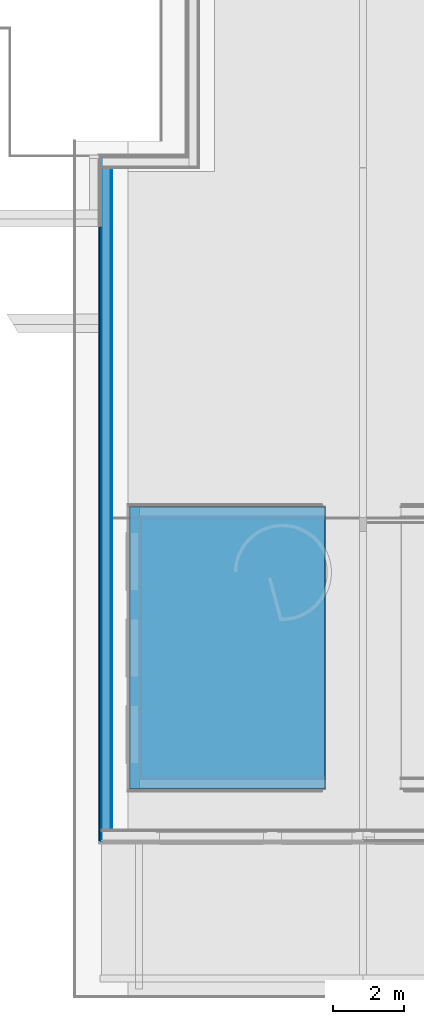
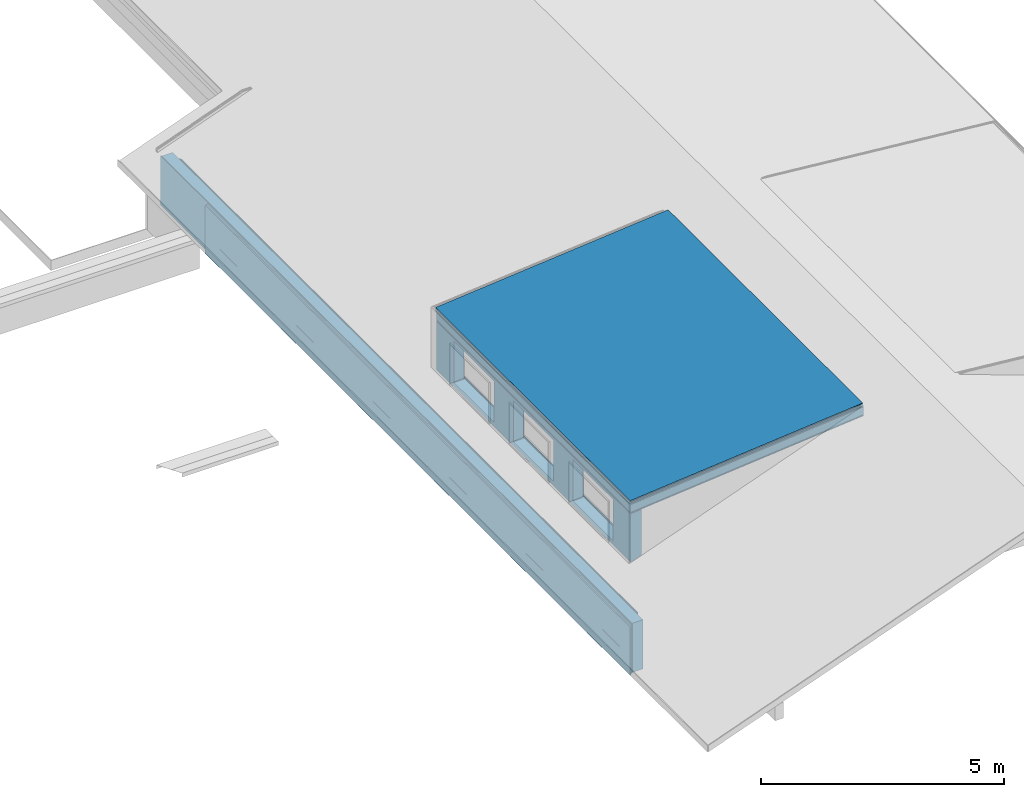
# One storey, part 3 of 12: 18 building element parts, 3 openings, 5 elements without a shape of their own.
"""IFC4 building model written with IfcOpenShell, lengths in millimetres."""

from ifc_helpers import new_model, entity, si_unit, converted_unit, derived_unit, direction, frame, origin_with_axes, place, context, subcontext, project, spatial, polygons, material, type_object, element, aggregate, save


model = new_model("IFC4")

# Units and contexts
model_context = context("Model", 3, precision=0.01, world=origin_with_axes(), true_north=direction((0.0, 1.0)))
body_context = subcontext(model_context, "Body", "Model", "MODEL_VIEW")
ifc_project = project(units=[si_unit("LENGTHUNIT", "METRE", prefix="MILLI"), si_unit("AREAUNIT", "SQUARE_METRE"), si_unit("VOLUMEUNIT", "CUBIC_METRE"), converted_unit("PLANEANGLEUNIT", "DEGREE", entity("IfcPlaneAngleMeasure", 0.0174532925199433), si_unit("PLANEANGLEUNIT", "RADIAN"), dimensions=[0, 0, 0, 0, 0, 0, 0]), converted_unit("TIMEUNIT", "Year", entity("IfcTimeMeasure", 31557600.0), si_unit("TIMEUNIT", "SECOND"), dimensions=[0, 0, 1, 0, 0, 0, 0]), si_unit("MASSUNIT", "GRAM", prefix="KILO"), si_unit("THERMODYNAMICTEMPERATUREUNIT", "DEGREE_CELSIUS"), si_unit("LUMINOUSINTENSITYUNIT", "LUMEN"), si_unit("ENERGYUNIT", "JOULE", prefix="MEGA"), derived_unit("THERMALCONDUCTANCEUNIT", [(si_unit("POWERUNIT", "WATT"), 1), (si_unit("LENGTHUNIT", "METRE"), -1), (si_unit("THERMODYNAMICTEMPERATUREUNIT", "KELVIN"), -1)]), derived_unit("SPECIFICHEATCAPACITYUNIT", [(si_unit("ENERGYUNIT", "JOULE"), 1), (si_unit("MASSUNIT", "GRAM", prefix="KILO"), -1), (si_unit("THERMODYNAMICTEMPERATUREUNIT", "KELVIN"), -1)]), derived_unit("MASSDENSITYUNIT", [(si_unit("MASSUNIT", "GRAM", prefix="KILO"), 1), (si_unit("VOLUMEUNIT", "CUBIC_METRE"), -1)])], contexts=[model_context])

# Site, building, storey
site_placement = place(None, origin_with_axes())
site = spatial("IfcSite", under=ifc_project, at=site_placement, Name="Gelände", CompositionType="ELEMENT")
building_placement = place(site_placement, origin_with_axes())
building = spatial("IfcBuilding", under=site, at=building_placement, Name="Gebäude", CompositionType="ELEMENT")
storey_placement = place(building_placement, frame((0.0, 0.0, 11600.0), z_axis=(0.0, 0.0, 1.0), x_axis=(1.0, 0.0, 0.0)))
storey = spatial("IfcBuildingStorey", under=building, at=storey_placement, Name="Dachaufsicht", CompositionType="ELEMENT", Elevation=11600.0)

# Curtain wall, building element parts
curtain_wall_type = type_object("IfcCurtainWallType", Name="Fassade Typ 02 - Vertikale Schalung 71", PredefinedType="NOTDEFINED")
curtain_wall_placement = place(storey_placement, frame((17928.99744477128, 25947.59674077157, 499.999999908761), z_axis=(0.0, 0.0, 1.0), x_axis=(0.0, -1.0, 0.0)))
curtain_wall = element("IfcCurtainWall", 1, at=curtain_wall_placement, inside=storey, type_object=curtain_wall_type, Name="Wand-014", PredefinedType="NOTDEFINED")
ifc_material_1 = material(Name="Lattenrost vertikal")
building_element_part_1_placement = place(curtain_wall_placement, origin_with_axes())
building_element_part_1 = element("IfcBuildingElementPart", 2, at=building_element_part_1_placement, material=ifc_material_1, Name="Lattenrost vertikal", PredefinedType="NOTDEFINED", context=body_context, shape_type="Tessellation", body=[
    polygons([(0.0, 46.00000117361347, 466.1732444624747), (0.0, 71.0000000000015, 468.641173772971), (0.0, 71.00000000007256, 433.5267559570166), (0.0, 46.00000109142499, 433.5267559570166), (17428.99945945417, 71.00000000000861, 468.641173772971), (17428.99945945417, 46.00000001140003, 466.1732443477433), (17428.99945945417, 70.99999999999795, 0.0), (0.0, 71.0000000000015, 0.0), (0.0, 71.00000000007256, 431.0000000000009), (4.999999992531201, 71.00000000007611, 431.0000000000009), (4.99991381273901, 71.00000000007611, 333.5267559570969), (7.699960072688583, 71.00000000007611, 333.5267559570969), (7.700087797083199, 71.00000000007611, 433.5267559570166), (7.700087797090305, 46.00000309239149, 433.5267559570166), (7.699960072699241, 46.00000309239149, 333.5267559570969), (4.999913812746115, 46.00000309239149, 333.5267559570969), (4.999999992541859, 46.00000309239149, 431.0000000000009), (0.0, 46.00000108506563, 431.0000000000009), (0.0, 45.99999999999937, 0.0), (17428.99945945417, 45.99999999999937, 0.0)], [[[1, 2, 3, 4]], [[5, 2, 1, 6]], [[2, 5, 7, 8, 9, 10, 11, 12, 13, 3]], [[4, 3, 13, 14]], [[6, 1, 4, 14, 15, 16, 17, 18, 19, 20]], [[5, 6, 20, 7]], [[20, 19, 8, 7]], [[18, 9, 8, 19]], [[10, 9, 18, 17]], [[11, 10, 17, 16]], [[12, 11, 16, 15]], [[13, 12, 15, 14]]], closed=True),
    polygons([(17428.99945945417, 71.00000000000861, 501.6508769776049), (0.0, 71.0000000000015, 501.6508769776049), (0.0, 71.00000141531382, 1228.330202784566), (17428.99945945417, 71.00000001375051, 1228.330202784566), (0.0, 68.29999884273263, 501.6508769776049), (17428.99945945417, 68.29999884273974, 501.6508769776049), (0.0, 68.29999884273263, 471.4821269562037), (0.0, 46.00000118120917, 469.1902176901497), (0.0, 46.00000307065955, 1219.698966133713), (0.0, 69.71413087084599, 1228.330202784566), (17428.99945945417, 69.71413087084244, 1228.330202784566), (17428.99945945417, 46.00000002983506, 1219.698965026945), (17428.99945945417, 46.00000001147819, 469.1902175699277), (17428.99945945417, 68.29999884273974, 471.4821269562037)], [[[1, 2, 3, 4]], [[5, 2, 1, 6]], [[7, 8, 9, 10, 3, 2, 5]], [[11, 4, 3, 10]], [[6, 1, 4, 11, 12, 13, 14]], [[7, 5, 6, 14]], [[8, 7, 14, 13]], [[8, 13, 12, 9]], [[9, 12, 11, 10]]], closed=True),
])
ifc_material_2 = material(Name="Lattenrost horizontal")
building_element_part_2_placement = place(curtain_wall_placement, origin_with_axes())
building_element_part_2 = element("IfcBuildingElementPart", 3, at=building_element_part_2_placement, material=ifc_material_2, Name="Lattenrost horizontal", PredefinedType="NOTDEFINED", context=body_context, shape_type="Tessellation", body=[
    polygons([(0.0, 21.00000180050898, 463.7053150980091), (0.0, 46.00000117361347, 466.1732444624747), (0.0, 46.00000109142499, 433.5267559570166), (0.0, 21.00000168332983, 433.5267559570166), (17453.99945944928, 46.00000000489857, 466.1732443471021), (17453.99945945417, 21.00000001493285, 463.7053149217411), (17453.99945945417, 45.99999999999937, 0.0), (0.0, 45.99999999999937, 0.0), (0.0, 46.00000108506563, 431.0000000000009), (4.999999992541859, 45.99999999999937, 431.0000000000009), (4.999913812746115, 45.99999999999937, 333.5267559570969), (7.699960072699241, 45.99999999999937, 333.5267559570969), (7.700087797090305, 45.99999999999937, 433.5267559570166), (7.700087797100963, 21.00000476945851, 433.5267559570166), (7.699960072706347, 21.00000476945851, 333.5267559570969), (4.999913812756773, 21.00000476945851, 333.5267559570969), (4.999999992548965, 21.00000476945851, 431.0000000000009), (0.0, 21.00000167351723, 431.0000000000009), (0.0, 20.99999999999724, 0.0), (17453.99945945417, 20.99999999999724, 0.0)], [[[1, 2, 3, 4]], [[5, 2, 1, 6]], [[2, 5, 7, 8, 9, 10, 11, 12, 13, 3]], [[4, 3, 13, 14]], [[6, 1, 4, 14, 15, 16, 17, 18, 19, 20]], [[5, 6, 20, 7]], [[20, 19, 8, 7]], [[18, 9, 8, 19]], [[10, 9, 18, 17]], [[11, 10, 17, 16]], [[12, 11, 16, 15]], [[13, 12, 15, 14]]], closed=True),
    polygons([(17453.99945944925, 46.00000000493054, 469.1902175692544), (0.0, 46.00000118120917, 469.1902176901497), (0.0, 46.00000307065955, 1219.698966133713), (17453.99945945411, 46.00000002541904, 1219.698965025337), (0.0, 21.00000181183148, 466.6208124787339), (17453.99945945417, 21.00000001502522, 466.6208122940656), (0.0, 21.00000470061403, 1210.599710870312), (17453.99945945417, 21.00000003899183, 1210.599709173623)], [[[1, 2, 3, 4]], [[5, 2, 1, 6]], [[2, 5, 7, 3]], [[3, 7, 8, 4]], [[6, 1, 4, 8]], [[5, 6, 8, 7]]], closed=True),
])
ifc_material_3 = material(Name="Falzschalung vertikal")
building_element_part_3_placement = place(curtain_wall_placement, origin_with_axes())
building_element_part_3 = element("IfcBuildingElementPart", 4, at=building_element_part_3_placement, material=ifc_material_3, Name="Falzschalung vertikal", PredefinedType="NOTDEFINED", context=body_context, shape_type="Tessellation", body=[
    polygons([(0.0, 0.0, 461.6322542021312), (0.0, 21.00000180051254, 463.7053150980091), (0.0, 21.00000168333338, 433.5267559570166), (0.0, 0.0, 433.5267559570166), (17478.99945944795, 21.00000000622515, 463.7053149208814), (17478.99945945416, 0.0, 461.6322542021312), (17478.99945945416, 20.99999999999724, 0.0), (0.0, 21.0000000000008, 0.0), (0.0, 21.00000167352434, 431.0000000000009), (4.999999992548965, 21.0000000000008, 431.0000000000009), (4.999913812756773, 21.0000000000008, 333.5267559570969), (7.699960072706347, 21.0000000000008, 333.5267559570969), (7.700087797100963, 21.0000000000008, 433.5267559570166), (7.700087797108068, 0.0, 433.5267559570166), (7.699960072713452, 0.0, 333.5267559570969), (4.999913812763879, 0.0, 333.5267559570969), (4.99999999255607, 0.0, 431.0000000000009), (0.0, 0.0, 431.0000000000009), (0.0, 0.0, 0.0), (17478.99945945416, 0.0, 0.0)], [[[1, 2, 3, 4]], [[5, 2, 1, 6]], [[2, 5, 7, 8, 9, 10, 11, 12, 13, 3]], [[4, 3, 13, 14]], [[6, 1, 4, 14, 15, 16, 17, 18, 19, 20]], [[5, 6, 20, 7]], [[20, 19, 8, 7]], [[18, 9, 8, 19]], [[10, 9, 18, 17]], [[11, 10, 17, 16]], [[12, 11, 16, 15]], [[13, 12, 15, 14]]], closed=True),
    polygons([(17478.99945944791, 21.00000000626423, 466.620812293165), (0.0, 21.00000181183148, 466.6208124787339), (0.0, 21.00000470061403, 1210.599710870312), (17478.99945945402, 21.00000003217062, 1210.59970917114), (0.0, 0.0, 464.462511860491), (17478.99945945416, 0.0, 464.4625118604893), (0.0, 0.0, 1202.95633423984), (17478.99945945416, 0.0, 1202.95633423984)], [[[1, 2, 3, 4]], [[5, 2, 1, 6]], [[2, 5, 7, 3]], [[3, 7, 8, 4]], [[6, 1, 4, 8]], [[5, 6, 8, 7]]], closed=True),
])
aggregate(curtain_wall, [building_element_part_1, building_element_part_2, building_element_part_3])

# Roof, building element parts
roof_type = type_object("IfcRoofType", Name="Steildach Typ 01 255", PredefinedType="NOTDEFINED")
roof_placement = place(storey_placement, frame((18825.99744477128, 15355.6701158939, 3308.732717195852), z_axis=(0.0, 0.0, 1.0), x_axis=(0.0, -1.0, 0.0)))
roof = element("IfcRoof", 5, at=roof_placement, inside=storey, type_object=roof_type, Name="Dach-011", PredefinedType="NOTDEFINED")
ifc_material_4 = material(Name="Balken Konstruktion gedämmt")
building_element_part_4_placement = place(roof_placement, origin_with_axes())
building_element_part_4 = element("IfcBuildingElementPart", 6, at=building_element_part_4_placement, material=ifc_material_4, Name="Balken Konstruktion gedämmt", PredefinedType="NOTDEFINED", context=body_context, shape_type="Tessellation", body=[
    polygons([(5348.000003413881, 5534.146930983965, 746.2016753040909), (5348.00000370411, 5534.146931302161, 555.3641014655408), (-2623.999996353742, 5534.146931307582, 555.3641014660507), (-2623.999996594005, 5534.14693101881, 746.2016753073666), (5348.000003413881, 1.611866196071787e-08, 225.991863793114), (5348.00000370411, 1.182094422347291e-07, 35.15428993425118), (-2623.999996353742, 1.182094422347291e-07, 35.15428993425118), (-2623.999996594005, 1.611866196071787e-08, 225.991863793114)], [[[1, 2, 3, 4]], [[5, 6, 2, 1]], [[3, 2, 6, 7]], [[4, 3, 7, 8]], [[4, 8, 5, 1]], [[8, 7, 6, 5]]], closed=True),
])
ifc_material_5 = material(Name="Gipskartonplatte GKP")
building_element_part_5_placement = place(roof_placement, origin_with_axes())
building_element_part_5 = element("IfcBuildingElementPart", 7, at=building_element_part_5_placement, material=ifc_material_5, Name="Gipskartonplatte GKP", PredefinedType="NOTDEFINED", context=body_context, shape_type="Tessellation", body=[
    polygons([(5348.00000370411, 5534.146931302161, 555.3641014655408), (5348.000003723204, 5534.146931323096, 542.8089979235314), (-2623.999996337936, 5534.146931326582, 542.8089979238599), (-2623.999996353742, 5534.146931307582, 555.3641014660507), (5348.00000370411, 1.182094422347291e-07, 35.15428993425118), (5348.000003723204, 1.24924071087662e-07, 22.59918639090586), (-2623.999996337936, 1.24924071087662e-07, 22.59918639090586), (-2623.999996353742, 1.182094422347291e-07, 35.15428993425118)], [[[1, 2, 3, 4]], [[5, 6, 2, 1]], [[3, 2, 6, 7]], [[4, 3, 7, 8]], [[4, 8, 5, 1]], [[8, 7, 6, 5]]], closed=True),
])
ifc_material_6 = material(Name="Dreischichtplatte-DSP")
building_element_part_6_placement = place(roof_placement, origin_with_axes())
building_element_part_6 = element("IfcBuildingElementPart", 8, at=building_element_part_6_placement, material=ifc_material_6, Name="Dreischichtplatte-DSP", PredefinedType="NOTDEFINED", context=body_context, shape_type="Tessellation", body=[
    polygons([(-2623.999996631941, 5534.146930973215, 776.3339231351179), (-2623.999996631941, 0.0, 256.1241116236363), (5348.000003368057, 0.0, 256.1241116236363), (5348.000003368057, 5534.146930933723, 776.333923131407), (-2623.999996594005, 5534.14693101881, 746.2016753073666), (-2623.999996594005, 1.611866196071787e-08, 225.991863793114), (5348.000003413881, 1.611866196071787e-08, 225.991863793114), (5348.000003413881, 5534.146930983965, 746.2016753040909)], [[[1, 2, 3, 4]], [[1, 5, 6, 2]], [[2, 6, 7, 3]], [[3, 7, 8, 4]], [[4, 8, 5, 1]], [[5, 8, 7, 6]]], closed=True),
])
ifc_material_7 = material(Name="Kalkzementputz Aussen")
building_element_part_7_placement = place(roof_placement, origin_with_axes())
building_element_part_7 = element("IfcBuildingElementPart", 9, at=building_element_part_7_placement, material=ifc_material_7, Name="Kalkzementputz Aussen", PredefinedType="NOTDEFINED", context=body_context, shape_type="Tessellation", body=[
    polygons([(5348.000003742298, 5534.146931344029, 530.2538943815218), (5348.000003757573, 5534.146931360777, 520.2098119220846), (-2623.999996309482, 5534.146931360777, 520.2098119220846), (-2623.999996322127, 5534.146931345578, 530.2538943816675), (5348.000003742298, 1.316422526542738e-07, 10.04408284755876), (5348.000003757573, 1.370139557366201e-07, 3.8705216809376e-07), (-2623.999996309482, 1.370139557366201e-07, 3.8705216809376e-07), (-2623.999996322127, 1.316422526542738e-07, 10.04408284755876)], [[[1, 2, 3, 4]], [[5, 6, 2, 1]], [[2, 6, 7, 3]], [[4, 3, 7, 8]], [[4, 8, 5, 1]], [[8, 7, 6, 5]]], closed=True),
])
building_element_part_8_placement = place(roof_placement, origin_with_axes())
building_element_part_8 = element("IfcBuildingElementPart", 10, at=building_element_part_8_placement, material=ifc_material_5, Name="Gipskartonplatte GKP", PredefinedType="NOTDEFINED", context=body_context, shape_type="Tessellation", body=[
    polygons([(5348.000003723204, 5534.146931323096, 542.8089979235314), (5348.000003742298, 5534.146931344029, 530.2538943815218), (-2623.99999632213, 5534.146931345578, 530.2538943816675), (-2623.999996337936, 5534.146931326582, 542.8089979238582), (5348.000003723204, 1.24924071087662e-07, 22.59918639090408), (5348.000003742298, 1.316422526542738e-07, 10.04408284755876), (-2623.99999632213, 1.316422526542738e-07, 10.04408284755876), (-2623.999996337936, 1.24924071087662e-07, 22.59918639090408)], [[[1, 2, 3, 4]], [[5, 6, 2, 1]], [[3, 2, 6, 7]], [[4, 3, 7, 8]], [[4, 8, 5, 1]], [[8, 7, 6, 5]]], closed=True),
])
aggregate(roof, [building_element_part_4, building_element_part_5, building_element_part_6, building_element_part_7, building_element_part_8])

# Covering, building element parts
covering_type = type_object("IfcCoveringType", Name="Dacheindeckung Typ 03 - Steildach 100", PredefinedType="NOTDEFINED")
covering_placement = place(storey_placement, frame((18825.99744477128, 15355.67011252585, 3554.811502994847), z_axis=(0.0, 0.0, 1.0), x_axis=(0.0, -1.0, 0.0)))
covering = element("IfcCovering", 11, at=covering_placement, inside=storey, type_object=covering_type, Name="Dach-011", PredefinedType="NOTDEFINED")
ifc_material_8 = material(Name="Dachziegel grau")
building_element_part_9_placement = place(covering_placement, origin_with_axes())
building_element_part_9 = element("IfcBuildingElementPart", 12, at=building_element_part_9_placement, material=ifc_material_8, Name="Dachziegel grau", PredefinedType="NOTDEFINED", context=body_context, shape_type="Tessellation", body=[
    polygons([(-2642.0, 5509.237092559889, 618.3091150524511), (-2642.0, -18.00000000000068, 98.74882835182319), (5366.0, -18.00000000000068, 98.74882835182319), (5366.0, 5509.237092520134, 618.3091150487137), (-2641.999999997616, 5509.237092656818, 593.1989079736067), (-2641.999999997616, -18.00000002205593, 73.63862126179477), (5366.00000009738, -18.00000002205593, 73.63862126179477), (5366.00000009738, 5509.237092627, 593.1989079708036)], [[[1, 2, 3, 4]], [[1, 5, 6, 2]], [[2, 6, 7, 3]], [[3, 7, 8, 4]], [[4, 8, 5, 1]], [[5, 8, 7, 6]]], closed=True),
])
ifc_material_9 = material(Name="Aufdachdämmung")
building_element_part_10_placement = place(covering_placement, origin_with_axes())
building_element_part_10 = element("IfcBuildingElementPart", 13, at=building_element_part_10_placement, material=ifc_material_9, Name="Aufdachdämmung", PredefinedType="NOTDEFINED", context=body_context, shape_type="Tessellation", body=[
    polygons([(5366.00000009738, 5509.237092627, 593.1989079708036), (5366.000000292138, 5509.237092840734, 542.9784938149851), (-2641.999999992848, 5509.237092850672, 542.9784938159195), (-2641.999999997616, 5509.237092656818, 593.1989079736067), (5366.00000009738, -18.00000002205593, 73.63862126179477), (5366.000000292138, -18.00000006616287, 23.41820708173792), (-2641.999999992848, -18.00000006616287, 23.41820708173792), (-2641.999999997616, -18.00000002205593, 73.63862126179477)], [[[1, 2, 3, 4]], [[5, 6, 2, 1]], [[3, 2, 6, 7]], [[4, 3, 7, 8]], [[4, 8, 5, 1]], [[8, 7, 6, 5]]], closed=True),
])
building_element_part_11_placement = place(covering_placement, origin_with_axes())
building_element_part_11 = element("IfcBuildingElementPart", 14, at=building_element_part_11_placement, material=ifc_material_1, Name="Lattenrost vertikal", PredefinedType="NOTDEFINED", context=body_context, shape_type="Tessellation", body=[
    polygons([(5366.000000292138, 5509.237092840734, 542.9784938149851), (5366.000000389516, 5509.2370929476, 517.8682871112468), (-2641.999999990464, 5509.2370929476, 517.8682871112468), (-2641.999999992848, 5509.237092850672, 542.9784938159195), (5366.000000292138, -18.00000006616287, 23.41820708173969), (5366.000000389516, -18.00000008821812, -1.691999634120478), (-2641.999999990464, -18.00000008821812, -1.691999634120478), (-2641.999999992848, -18.00000006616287, 23.41820708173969)], [[[1, 2, 3, 4]], [[5, 6, 2, 1]], [[2, 6, 7, 3]], [[4, 3, 7, 8]], [[4, 8, 5, 1]], [[8, 7, 6, 5]]], closed=True),
])
aggregate(covering, [building_element_part_9, building_element_part_10, building_element_part_11])

# Wall, building element parts
wall_type = type_object("IfcWallType", Name="Aussenwand Typ 01 318", PredefinedType="NOTDEFINED")
wall_1_placement = place(storey_placement, frame((17999.99744477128, 27907.59728131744, 500.0), z_axis=(0.0, 0.0, 1.0), x_axis=(0.0, -1.0, 0.0)))
wall_1 = element("IfcWall", 15, at=wall_1_placement, inside=storey, type_object=wall_type, Name="Wand-014", PredefinedType="NOTDEFINED")
ifc_material_10 = material(Name="Verputz Innen")
building_element_part_12_placement = place(wall_1_placement, origin_with_axes())
building_element_part_12 = element("IfcBuildingElementPart", 16, at=building_element_part_12_placement, material=ifc_material_10, Name="Verputz Innen", PredefinedType="NOTDEFINED", context=body_context, shape_type="Tessellation", body=[
    polygons([(10217.9271687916, 317.9999999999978, 150.0001526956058), (10217.9271687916, 317.9999999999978, 0.0), (307.9999999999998, 318.0000000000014, 0.0), (307.9999999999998, 318.0000000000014, 1235.349685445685), (19081.00000000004, 317.9999999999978, 1235.349685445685), (19081.00000000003, 317.9999999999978, 150.0000000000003), (10244.9271687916, 317.9999999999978, 150.0001526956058), (10217.9271687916, 308.0000000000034, 150.0001526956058), (10217.9271687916, 308.0000000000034, 0.0), (307.9999999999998, 307.9999999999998, 0.0), (307.9999999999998, 307.9999999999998, 1235.349685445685), (19081.00000000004, 307.9999999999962, 1235.349685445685), (19081.00000000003, 308.0000000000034, 150.0000000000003), (10244.9271687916, 308.0000000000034, 150.0001526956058)], [[[1, 2, 3, 4, 5, 6, 7]], [[2, 1, 8, 9]], [[2, 9, 10, 3]], [[11, 4, 3, 10]], [[11, 12, 5, 4]], [[12, 13, 6, 5]], [[14, 8, 1, 7, 6, 13]], [[8, 14, 13, 12, 11, 10, 9]]], closed=True),
])
ifc_material_11 = material(Name="Gipsfaserplatte GFP")
building_element_part_13_placement = place(wall_1_placement, origin_with_axes())
building_element_part_13 = element("IfcBuildingElementPart", 17, at=building_element_part_13_placement, material=ifc_material_11, Name="Gipsfaserplatte GFP", PredefinedType="NOTDEFINED", context=body_context, shape_type="Tessellation", body=[
    polygons([(19111.00000000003, 277.9999999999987, 0.0), (277.9999999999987, 277.9999999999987, 0.0), (277.9999999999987, 292.9999999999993, 0.0), (19111.00000000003, 292.9999999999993, 0.0), (19111.00000000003, 277.9999999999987, 1235.349685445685), (277.9999999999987, 277.9999999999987, 1235.349685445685), (277.9999999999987, 292.9999999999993, 1235.349685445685), (19111.00000000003, 292.9999999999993, 1235.349685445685)], [[[1, 2, 3, 4]], [[5, 6, 2, 1]], [[3, 2, 6, 7]], [[4, 3, 7, 8]], [[4, 8, 5, 1]], [[8, 7, 6, 5]]], closed=True),
])
building_element_part_14_placement = place(wall_1_placement, origin_with_axes())
building_element_part_14 = element("IfcBuildingElementPart", 18, at=building_element_part_14_placement, material=ifc_material_11, Name="Gipsfaserplatte GFP", PredefinedType="NOTDEFINED", context=body_context, shape_type="Tessellation", body=[
    polygons([(19096.00000000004, 307.9999999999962, 0.0), (19096.00000000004, 292.9999999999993, 0.0), (292.9999999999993, 292.9999999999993, 0.0), (292.9999999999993, 307.9999999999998, 0.0), (19096.00000000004, 307.9999999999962, 1235.349685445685), (19096.00000000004, 292.9999999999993, 1235.349685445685), (292.9999999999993, 292.9999999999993, 1235.349685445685), (292.9999999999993, 307.9999999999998, 1235.349685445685)], [[[1, 2, 3, 4]], [[2, 1, 5, 6]], [[2, 6, 7, 3]], [[8, 4, 3, 7]], [[5, 1, 4, 8]], [[6, 5, 8, 7]]], closed=True),
])
ifc_material_12 = material(Name="Ständer Konstruktion gedämmt")
building_element_part_15_placement = place(wall_1_placement, origin_with_axes())
building_element_part_15 = element("IfcBuildingElementPart", 19, at=building_element_part_15_placement, material=ifc_material_12, Name="Ständer Konstruktion gedämmt", PredefinedType="NOTDEFINED", context=body_context, shape_type="Tessellation", body=[
    polygons([(19371.00000000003, 17.99999999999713, 0.0), (18.00000000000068, 18.00000000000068, 0.0), (18.00000000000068, 277.9999999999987, 0.0), (19371.00000000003, 277.9999999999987, 0.0), (19371.00000000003, 17.99999999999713, 1235.349685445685), (18.00000000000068, 18.00000000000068, 1235.349685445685), (18.00000000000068, 277.9999999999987, 1235.349685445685), (19371.00000000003, 277.9999999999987, 1235.349685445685)], [[[1, 2, 3, 4]], [[5, 6, 2, 1]], [[3, 2, 6, 7]], [[4, 3, 7, 8]], [[4, 8, 5, 1]], [[8, 7, 6, 5]]], closed=True),
])
ifc_material_13 = material(Name="Grobspanplatte-OSB")
building_element_part_16_placement = place(wall_1_placement, origin_with_axes())
building_element_part_16 = element("IfcBuildingElementPart", 20, at=building_element_part_16_placement, material=ifc_material_13, Name="Grobspanplatte-OSB", PredefinedType="NOTDEFINED", context=body_context, shape_type="Tessellation", body=[
    polygons([(19389.00000000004, 0.0, 0.0), (0.0, 0.0, 0.0), (0.0, 18.00000000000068, 0.0), (19389.00000000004, 17.99999999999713, 0.0), (19389.00000000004, 0.0, 1235.349685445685), (0.0, 0.0, 1235.349685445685), (0.0, 18.00000000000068, 1235.349685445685), (19389.00000000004, 17.99999999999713, 1235.349685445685)], [[[1, 2, 3, 4]], [[5, 6, 2, 1]], [[3, 2, 6, 7]], [[4, 3, 7, 8]], [[4, 8, 5, 1]], [[8, 7, 6, 5]]], closed=True),
])
aggregate(wall_1, [building_element_part_12, building_element_part_13, building_element_part_14, building_element_part_15, building_element_part_16])

# Wall, openings, building element parts
wall_2_placement = place(storey_placement, frame((18807.99744477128, 9989.670112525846, 1800.639413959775), z_axis=(0.0, 0.0, 1.0), x_axis=(0.0, 1.0, 0.0)))
wall_2 = element("IfcWall", 21, at=wall_2_placement, inside=storey, type_object=wall_type, Name="Wand-014", PredefinedType="NOTDEFINED")
opening_1_placement = place(wall_2_placement, frame((6454.000000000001, 0.0, 464.1720890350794), z_axis=(0.0, 0.0, 1.0), x_axis=(1.0, 0.0, 0.0)))
element("IfcOpeningElement", 22, at=opening_1_placement, cuts=wall_2, Name="Fenster-004", context=body_context, identifier="Reference", shape_type="Tessellation", body=[
    polygons([(-820.9999999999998, -250.0, 971.0000000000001), (821.0000000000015, -250.0, 971.0000000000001), (821.0000000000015, 1.000000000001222, 971.0000000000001), (-820.9999999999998, 1.000000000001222, 971.0000000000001), (821.0000000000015, -250.0, -60.0000000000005), (-820.9999999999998, -250.0, -60.0000000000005), (-920.9999999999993, -250.0, -60.0000000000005), (-920.9999999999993, -250.0, 1071.0), (920.9999999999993, -250.0, 1071.0), (920.9999999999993, -250.0, -60.0000000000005), (821.0000000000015, 1.000000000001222, -60.0000000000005), (-820.9999999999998, 1.000000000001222, -60.0000000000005), (920.9999999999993, -319.0000000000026, -60.0000000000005), (-920.9999999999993, -319.0000000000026, -60.0000000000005), (-920.9999999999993, -319.0000000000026, 1071.0), (920.9999999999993, -319.0000000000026, 1071.0)], [[[1, 2, 3, 4]], [[5, 2, 1, 6, 7, 8, 9, 10]], [[2, 5, 11, 3]], [[3, 11, 12, 4]], [[6, 1, 4, 12]], [[6, 5, 10, 13, 14, 7]], [[8, 7, 14, 15]], [[9, 8, 15, 16]], [[10, 9, 16, 13]], [[5, 6, 12, 11]], [[15, 14, 13, 16]]], closed=True),
])
opening_2_placement = place(wall_2_placement, frame((1553.999999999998, 0.0, 464.1720890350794), z_axis=(0.0, 0.0, 1.0), x_axis=(1.0, 0.0, 0.0)))
element("IfcOpeningElement", 23, at=opening_2_placement, cuts=wall_2, Name="Fenster-004", context=body_context, identifier="Reference", shape_type="Tessellation", body=[
    polygons([(-820.9999999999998, -250.0, 971.0000000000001), (820.9999999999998, -250.0, 971.0000000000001), (820.9999999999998, 1.000000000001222, 971.0000000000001), (-820.9999999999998, 1.000000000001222, 971.0000000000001), (820.9999999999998, -250.0, -60.0000000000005), (-820.9999999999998, -250.0, -60.0000000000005), (-920.9999999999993, -250.0, -60.0000000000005), (-920.9999999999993, -250.0, 1071.0), (920.9999999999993, -250.0, 1071.0), (920.9999999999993, -250.0, -60.0000000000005), (820.9999999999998, 1.000000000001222, -60.0000000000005), (-820.9999999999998, 1.000000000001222, -60.0000000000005), (920.9999999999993, -319.0000000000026, -60.0000000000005), (-920.9999999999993, -319.0000000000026, -60.0000000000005), (-920.9999999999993, -319.0000000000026, 1071.0), (920.9999999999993, -319.0000000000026, 1071.0)], [[[1, 2, 3, 4]], [[5, 2, 1, 6, 7, 8, 9, 10]], [[2, 5, 11, 3]], [[3, 11, 12, 4]], [[6, 1, 4, 12]], [[6, 5, 10, 13, 14, 7]], [[8, 7, 14, 15]], [[9, 8, 15, 16]], [[10, 9, 16, 13]], [[5, 6, 12, 11]], [[15, 14, 13, 16]]], closed=True),
])
opening_3_placement = place(wall_2_placement, frame((4004.0, 0.0, 464.1720890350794), z_axis=(0.0, 0.0, 1.0), x_axis=(1.0, 0.0, 0.0)))
element("IfcOpeningElement", 24, at=opening_3_placement, cuts=wall_2, Name="Fenster-004", context=body_context, identifier="Reference", shape_type="Tessellation", body=[
    polygons([(-820.9999999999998, -250.0, 971.0000000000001), (820.9999999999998, -250.0, 971.0000000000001), (820.9999999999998, 1.000000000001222, 971.0000000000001), (-820.9999999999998, 1.000000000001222, 971.0000000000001), (820.9999999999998, -250.0, -60.0000000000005), (-820.9999999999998, -250.0, -60.0000000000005), (-920.9999999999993, -250.0, -60.0000000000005), (-920.9999999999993, -250.0, 1071.0), (920.9999999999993, -250.0, 1071.0), (920.9999999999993, -250.0, -60.0000000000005), (820.9999999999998, 1.000000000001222, -60.0000000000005), (-820.9999999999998, 1.000000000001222, -60.0000000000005), (920.9999999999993, -319.0000000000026, -60.0000000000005), (-920.9999999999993, -319.0000000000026, -60.0000000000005), (-920.9999999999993, -319.0000000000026, 1071.0), (920.9999999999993, -319.0000000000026, 1071.0)], [[[1, 2, 3, 4]], [[5, 2, 1, 6, 7, 8, 9, 10]], [[2, 5, 11, 3]], [[3, 11, 12, 4]], [[6, 1, 4, 12]], [[6, 5, 10, 13, 14, 7]], [[8, 7, 14, 15]], [[9, 8, 15, 16]], [[10, 9, 16, 13]], [[5, 6, 12, 11]], [[15, 14, 13, 16]]], closed=True),
])
building_element_part_17_placement = place(wall_2_placement, origin_with_axes())
building_element_part_17 = element("IfcBuildingElementPart", 25, at=building_element_part_17_placement, material=ifc_material_12, Name="Ständer Konstruktion gedämmt", PredefinedType="NOTDEFINED", context=body_context, shape_type="Tessellation", body=[
    polygons([(278.0000000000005, -278.0000000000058, 387.2811476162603), (7730.027168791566, -278.0000000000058, 387.2811476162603), (7989.999999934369, -278.0000019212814, 387.2811483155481), (7989.99999967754, -278.0000003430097, 1532.533303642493), (7375.0, -278.0000023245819, 1532.53330382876), (7375.0, -278.0000023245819, 404.1720890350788), (5533.000000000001, -278.0000023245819, 404.1720890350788), (5533.000000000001, -278.0000023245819, 1532.53330382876), (4924.999999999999, -278.0000023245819, 1532.53330382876), (4924.999999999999, -278.0000023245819, 404.1720890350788), (3083.0, -278.0000023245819, 404.1720890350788), (3083.0, -278.0000023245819, 1532.53330382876), (2474.999999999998, -278.0000023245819, 1532.53330382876), (2474.999999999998, -278.0000023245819, 404.1720890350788), (632.9999999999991, -278.0000023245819, 404.1720890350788), (632.9999999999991, -278.0000023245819, 1532.53330382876), (17.99999961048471, -278.0000003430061, 1532.533303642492), (17.99999992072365, -278.0000019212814, 387.2811483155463), (7989.999999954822, -17.99999871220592, 292.6488862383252), (17.99999994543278, -17.99999871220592, 292.6488862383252), (7989.99999967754, -18.00000013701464, 1508.093303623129), (7375.0, -250.0, 1529.901303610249), (17.99999961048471, -18.00000013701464, 1508.093303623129), (632.9999999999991, -250.0, 1529.901303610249), (2474.999999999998, -250.0, 1529.901303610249), (3083.0, -250.0, 1529.901303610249), (4924.999999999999, -250.0, 1529.901303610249), (5533.000000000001, -250.0, 1529.901303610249), (7375.0, -250.0, 404.1720890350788), (5633.000000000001, -250.0, 404.1720890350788), (5533.000000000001, -250.0, 404.1720890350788), (7275.000000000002, -250.0, 404.1720890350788), (4924.999999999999, -250.0, 404.1720890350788), (3183.0, -250.0, 404.1720890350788), (3083.0, -250.0, 404.1720890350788), (4824.999999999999, -250.0, 404.1720890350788), (2474.999999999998, -250.0, 404.1720890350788), (732.9999999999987, -250.0, 404.1720890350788), (632.9999999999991, -250.0, 404.1720890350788), (2374.999999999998, -250.0, 404.1720890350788), (5633.000000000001, -17.99999848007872, 1435.172089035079), (5633.000000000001, -17.99999848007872, 404.1720890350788), (7275.000000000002, -17.99999848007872, 404.1720890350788), (7275.000000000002, -17.99999848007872, 1435.172089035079), (4824.999999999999, -17.99999997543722, 404.1720890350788), (4824.999999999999, -17.99999997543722, 1435.172089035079), (3183.0, -17.99999997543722, 1435.172089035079), (3183.0, -17.99999997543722, 404.1720890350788), (732.9999999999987, -17.99999856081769, 1435.172089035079), (732.9999999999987, -17.99999856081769, 404.1720890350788), (2374.999999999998, -17.99999856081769, 404.1720890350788), (2374.999999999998, -17.99999856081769, 1435.172089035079), (732.9999999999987, -250.0, 1435.172089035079), (2374.999999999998, -250.0, 1435.172089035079), (3183.0, -250.0, 1435.172089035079), (4824.999999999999, -250.0, 1435.172089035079), (5633.000000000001, -250.0, 1435.172089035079), (7275.000000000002, -250.0, 1435.172089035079)], [[[1, 2, 3, 4, 5, 6, 7, 8, 9, 10, 11, 12, 13, 14, 15, 16, 17, 18]], [[19, 3, 2, 1, 18, 20]], [[3, 19, 21, 4]], [[22, 5, 4, 21, 23, 17, 16, 24, 25, 13, 12, 26, 27, 9, 8, 28]], [[6, 5, 22, 29]], [[30, 31, 7, 6, 29, 32]], [[31, 28, 8, 7]], [[10, 9, 27, 33]], [[34, 35, 11, 10, 33, 36]], [[35, 26, 12, 11]], [[14, 13, 25, 37]], [[38, 39, 15, 14, 37, 40]], [[39, 24, 16, 15]], [[20, 18, 17, 23]], [[19, 20, 23, 21], [41, 42, 43, 44], [45, 46, 47, 48], [49, 50, 51, 52]], [[37, 25, 24, 39, 38, 53, 54, 40]], [[33, 27, 26, 35, 34, 55, 56, 36]], [[29, 22, 28, 31, 30, 57, 58, 32]], [[43, 42, 30, 32]], [[34, 36, 45, 48]], [[51, 50, 38, 40]], [[42, 41, 57, 30]], [[44, 43, 32, 58]], [[41, 44, 58, 57]], [[36, 56, 46, 45]], [[56, 55, 47, 46]], [[55, 34, 48, 47]], [[50, 49, 53, 38]], [[52, 51, 40, 54]], [[49, 52, 54, 53]]], closed=True),
])
building_element_part_18_placement = place(wall_2_placement, origin_with_axes())
building_element_part_18 = element("IfcBuildingElementPart", 26, at=building_element_part_18_placement, material=ifc_material_10, Name="Verputz Innen", PredefinedType="NOTDEFINED", context=body_context, shape_type="Tessellation", body=[
    polygons([(7699.999999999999, -307.9999982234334, 105.5513669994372), (7699.999999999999, -307.9999997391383, 1535.353303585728), (7699.999999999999, -318.0000000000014, 1536.293303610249), (7699.999999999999, -318.0000000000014, 109.191069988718), (307.9999999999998, -307.9999982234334, 105.5513669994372), (307.9999999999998, -307.9999997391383, 1535.353303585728), (5533.000000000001, -307.9999982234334, 404.1720890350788), (7375.0, -307.9999982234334, 404.1720890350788), (7375.0, -307.9999982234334, 1535.172089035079), (5533.000000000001, -307.9999982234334, 1535.172089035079), (3083.0, -307.9999999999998, 1535.172089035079), (3083.0, -307.9999999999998, 404.1720890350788), (4924.999999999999, -307.9999999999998, 404.1720890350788), (4924.999999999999, -307.9999999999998, 1535.172089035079), (2474.999999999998, -307.9999999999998, 1535.172089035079), (632.9999999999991, -307.9999999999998, 1535.172089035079), (632.9999999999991, -307.9999999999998, 404.1720890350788), (2474.999999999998, -307.9999999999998, 404.1720890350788), (307.9999999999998, -318.0000000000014, 1536.293303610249), (307.9999999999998, -318.0000000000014, 109.191069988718), (5533.000000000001, -318.0000000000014, 404.1720890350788), (5533.000000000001, -318.0000000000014, 1535.172089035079), (7375.0, -318.0000000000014, 1535.172089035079), (7375.0, -318.0000000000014, 404.1720890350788), (4924.999999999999, -318.0000000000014, 404.1720890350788), (3083.0, -318.0000000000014, 404.1720890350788), (3083.0, -318.0000000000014, 1535.172089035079), (4924.999999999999, -318.0000000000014, 1535.172089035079), (2474.999999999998, -318.0000000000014, 1535.172089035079), (2474.999999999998, -318.0000000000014, 404.1720890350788), (632.9999999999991, -318.0000000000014, 404.1720890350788), (632.9999999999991, -318.0000000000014, 1535.172089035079)], [[[1, 2, 3, 4]], [[5, 6, 2, 1], [7, 8, 9, 10], [11, 12, 13, 14], [15, 16, 17, 18]], [[6, 19, 3, 2]], [[4, 3, 19, 20], [21, 22, 23, 24], [25, 26, 27, 28], [29, 30, 31, 32]], [[1, 4, 20, 5]], [[20, 19, 6, 5]], [[21, 24, 8, 7]], [[24, 23, 9, 8]], [[23, 22, 10, 9]], [[22, 21, 7, 10]], [[11, 27, 26, 12]], [[12, 26, 25, 13]], [[13, 25, 28, 14]], [[14, 28, 27, 11]], [[16, 15, 29, 32]], [[17, 16, 32, 31]], [[18, 17, 31, 30]], [[15, 18, 30, 29]]], closed=True),
])
aggregate(wall_2, [building_element_part_17, building_element_part_18])

save(model, "model.ifc")
